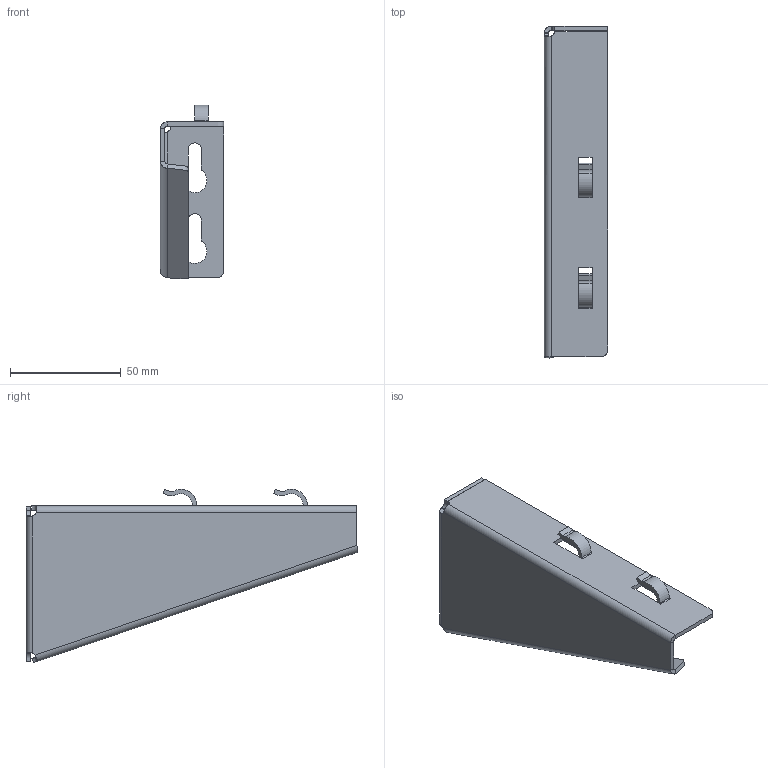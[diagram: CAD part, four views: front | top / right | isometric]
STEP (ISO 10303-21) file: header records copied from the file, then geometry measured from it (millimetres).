
FILE_DESCRIPTION(/* description */ (''),/* implementation_level */ '2;1');
FILE_NAME(/* name */ 'NZM150',/* time_stamp */ '2025-03-13T20:46:24+01:00',/* author */ (''),/* organization */ (''),/* preprocessor_version */ 'ST-DEVELOPER v16.5',/* originating_system */ '',/* authorisation */ '');
FILE_SCHEMA (('CONFIG_CONTROL_DESIGN'));
Length unit declared in the file: millimetre
Products named in the file (1): Document
Bounding box: 28.52 x 150.03 x 78.36 mm (x, y, z)
Volume: 27710.5 mm3; surface area: 28993.1 mm2
Topology: 1 solids, 3 shells, 82 faces, 210 edges, 132 vertices
Faces by surface type: bspline 31, plane 30, cylinder 21
Entity records: 2570 total; most frequent: CARTESIAN_POINT 1233, ORIENTED_EDGE 412, EDGE_CURVE 210, VERTEX_POINT 132, EDGE_LOOP 90, ADVANCED_FACE 82, FACE_OUTER_BOUND 82, B_SPLINE_CURVE_WITH_KNOTS 62
